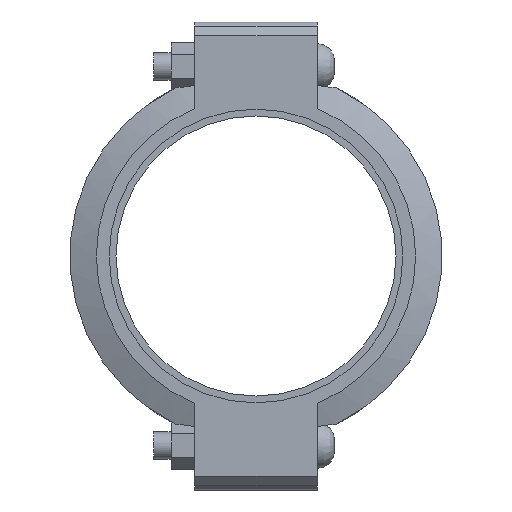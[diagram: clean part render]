
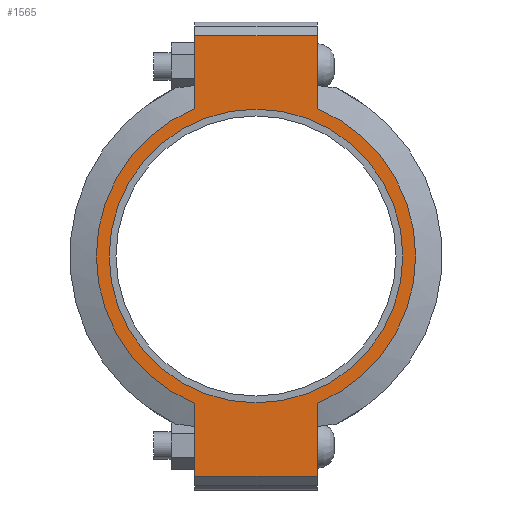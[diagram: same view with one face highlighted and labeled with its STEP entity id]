
A CAD part, left-side view. The second image highlights one B-rep face of the part: STEP entity #1565.
In plain terms, the highlighted planar face has unit normal (-1, 0, 0) as drawn and (0, 0, 1) by its records, which use the part's own axes.
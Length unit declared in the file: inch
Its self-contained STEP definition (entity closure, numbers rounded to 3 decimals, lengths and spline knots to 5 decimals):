
#136=LINE('',#2712,#225);
#147=LINE('',#2763,#236);
#153=LINE('',#2789,#242);
#155=LINE('',#2792,#244);
#156=LINE('',#2797,#245);
#157=LINE('',#2798,#246);
#225=VECTOR('',#2220,0.3937);
#236=VECTOR('',#2251,0.3937);
#242=VECTOR('',#2269,0.3937);
#244=VECTOR('',#2273,0.3937);
#245=VECTOR('',#2278,0.3937);
#246=VECTOR('',#2279,0.3937);
#308=FACE_BOUND('',#485,.T.);
#376=FACE_OUTER_BOUND('',#484,.T.);
#484=EDGE_LOOP('',(#1260,#1261,#1262,#1263,#1264,#1265,#1266,#1267));
#485=EDGE_LOOP('',(#1268));
#567=CIRCLE('',#1802,5.375);
#591=CIRCLE('',#1854,5.845);
#592=CIRCLE('',#1855,5.845);
#663=VERTEX_POINT('',#2538);
#704=VERTEX_POINT('',#2709);
#705=VERTEX_POINT('',#2711);
#722=VERTEX_POINT('',#2758);
#723=VERTEX_POINT('',#2762);
#730=VERTEX_POINT('',#2784);
#731=VERTEX_POINT('',#2788);
#732=VERTEX_POINT('',#2794);
#733=VERTEX_POINT('',#2796);
#827=EDGE_CURVE('',#663,#663,#567,.T.);
#884=EDGE_CURVE('',#705,#704,#136,.T.);
#905=EDGE_CURVE('',#723,#722,#147,.T.);
#916=EDGE_CURVE('',#731,#730,#153,.T.);
#918=EDGE_CURVE('',#731,#704,#155,.T.);
#919=EDGE_CURVE('',#730,#732,#591,.T.);
#920=EDGE_CURVE('',#732,#733,#156,.T.);
#921=EDGE_CURVE('',#723,#733,#157,.T.);
#922=EDGE_CURVE('',#722,#705,#592,.T.);
#1260=ORIENTED_EDGE('',*,*,#918,.F.);
#1261=ORIENTED_EDGE('',*,*,#916,.T.);
#1262=ORIENTED_EDGE('',*,*,#919,.T.);
#1263=ORIENTED_EDGE('',*,*,#920,.T.);
#1264=ORIENTED_EDGE('',*,*,#921,.F.);
#1265=ORIENTED_EDGE('',*,*,#905,.T.);
#1266=ORIENTED_EDGE('',*,*,#922,.T.);
#1267=ORIENTED_EDGE('',*,*,#884,.T.);
#1268=ORIENTED_EDGE('',*,*,#827,.T.);
#1405=PLANE('',#1853);
#1565=ADVANCED_FACE('',(#376,#308),#1405,.T.);
#1802=AXIS2_PLACEMENT_3D('',#2540,#2110,#2111);
#1853=AXIS2_PLACEMENT_3D('',#2793,#2274,#2275);
#1854=AXIS2_PLACEMENT_3D('',#2795,#2276,#2277);
#1855=AXIS2_PLACEMENT_3D('',#2799,#2280,#2281);
#2110=DIRECTION('center_axis',(0.,0.,-1.));
#2111=DIRECTION('ref_axis',(1.,0.,0.));
#2220=DIRECTION('',(1.,0.,0.));
#2251=DIRECTION('',(1.,0.,0.));
#2269=DIRECTION('',(-1.,0.,0.));
#2273=DIRECTION('',(0.,-1.,0.));
#2274=DIRECTION('center_axis',(0.,0.,1.));
#2275=DIRECTION('ref_axis',(-1.,0.,0.));
#2276=DIRECTION('center_axis',(0.,0.,1.));
#2277=DIRECTION('ref_axis',(1.,0.,0.));
#2278=DIRECTION('',(-1.,0.,0.));
#2279=DIRECTION('',(0.,1.,0.));
#2280=DIRECTION('center_axis',(0.,0.,1.));
#2281=DIRECTION('ref_axis',(1.,0.,0.));
#2538=CARTESIAN_POINT('',(-5.375,0.,1.315));
#2540=CARTESIAN_POINT('Origin',(0.,0.,1.315));
#2709=CARTESIAN_POINT('',(8.065,-2.25,1.315));
#2711=CARTESIAN_POINT('',(5.39458,-2.25,1.315));
#2712=CARTESIAN_POINT('',(-8.565,-2.25,1.315));
#2758=CARTESIAN_POINT('',(-5.39458,-2.25,1.315));
#2762=CARTESIAN_POINT('',(-8.065,-2.25,1.315));
#2763=CARTESIAN_POINT('',(-8.565,-2.25,1.315));
#2784=CARTESIAN_POINT('',(5.39458,2.25,1.315));
#2788=CARTESIAN_POINT('',(8.065,2.25,1.315));
#2789=CARTESIAN_POINT('',(8.565,2.25,1.315));
#2792=CARTESIAN_POINT('',(8.065,-1.125,1.315));
#2793=CARTESIAN_POINT('Origin',(0.,0.,
1.315));
#2794=CARTESIAN_POINT('',(-5.39458,2.25,1.315));
#2795=CARTESIAN_POINT('Origin',(0.,0.,1.315));
#2796=CARTESIAN_POINT('',(-8.065,2.25,1.315));
#2797=CARTESIAN_POINT('',(8.565,2.25,1.315));
#2798=CARTESIAN_POINT('',(-8.065,1.125,1.315));
#2799=CARTESIAN_POINT('Origin',(0.,0.,1.315));
